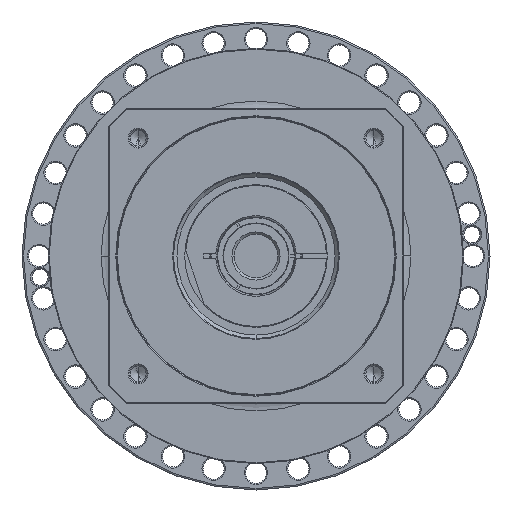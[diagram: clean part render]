
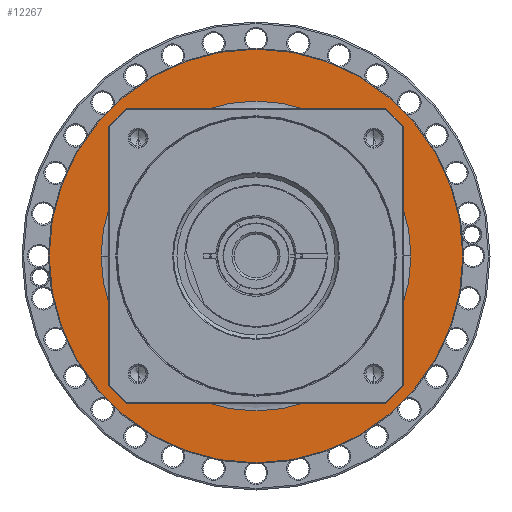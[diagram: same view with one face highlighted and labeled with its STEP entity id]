
A CAD part, left-side view. The second image highlights one B-rep face of the part: STEP entity #12267.
In plain terms, the highlighted planar face has unit normal (-1, 0, 0) as drawn and (1, 0, 0) by its records, which use the part's own axes.
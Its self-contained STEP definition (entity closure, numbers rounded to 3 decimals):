
#11746=CARTESIAN_POINT('',(-14.,0.,0.));
#11747=DIRECTION('',(-1.,0.,0.));
#11748=DIRECTION('',(0.,-1.,0.));
#11749=AXIS2_PLACEMENT_3D('',#11746,#11747,#11748);
#11751=CARTESIAN_POINT('',(-14.,0.,0.));
#11752=DIRECTION('',(-1.,0.,0.));
#11753=DIRECTION('',(0.,1.,0.));
#11754=AXIS2_PLACEMENT_3D('',#11751,#11752,#11753);
#11756=CARTESIAN_POINT('',(-14.,0.,0.));
#11757=DIRECTION('',(-1.,0.,0.));
#11758=DIRECTION('',(0.,-1.,0.));
#11759=AXIS2_PLACEMENT_3D('',#11756,#11757,#11758);
#11761=CARTESIAN_POINT('',(-14.,0.,0.));
#11762=DIRECTION('',(-1.,0.,0.));
#11763=DIRECTION('',(0.,1.,0.));
#11764=AXIS2_PLACEMENT_3D('',#11761,#11762,#11763);
#11830=CARTESIAN_POINT('',(-14.,-133.5,0.));
#11831=CARTESIAN_POINT('',(-14.,133.5,0.));
#11832=VERTEX_POINT('',#11830);
#11833=VERTEX_POINT('',#11831);
#11854=CARTESIAN_POINT('',(-14.,-100.,0.));
#11855=CARTESIAN_POINT('',(-14.,100.,0.));
#11856=VERTEX_POINT('',#11854);
#11857=VERTEX_POINT('',#11855);
#12252=CARTESIAN_POINT('',(-14.,0.,0.));
#12253=DIRECTION('',(1.,0.,0.));
#12254=DIRECTION('',(0.,-1.,0.));
#12255=AXIS2_PLACEMENT_3D('',#12252,#12253,#12254);
#12256=PLANE('',#12255);
#12257=ORIENTED_EDGE('',*,*,#12193,.T.);
#12258=ORIENTED_EDGE('',*,*,#12208,.T.);
#12259=EDGE_LOOP('',(#12257,#12258));
#12260=FACE_OUTER_BOUND('',#12259,.F.);
#12262=ORIENTED_EDGE('',*,*,#12261,.F.);
#12264=ORIENTED_EDGE('',*,*,#12263,.F.);
#12265=EDGE_LOOP('',(#12262,#12264));
#12266=FACE_BOUND('',#12265,.F.);
#12267=ADVANCED_FACE('',(#12260,#12266),#12256,.T.);
#11750=CIRCLE('',#11749,100.);
#11755=CIRCLE('',#11754,100.);
#11760=CIRCLE('',#11759,133.5);
#11765=CIRCLE('',#11764,133.5);
#12193=EDGE_CURVE('',#11832,#11833,#11760,.T.);
#12208=EDGE_CURVE('',#11833,#11832,#11765,.T.);
#12261=EDGE_CURVE('',#11856,#11857,#11750,.T.);
#12263=EDGE_CURVE('',#11857,#11856,#11755,.T.);
